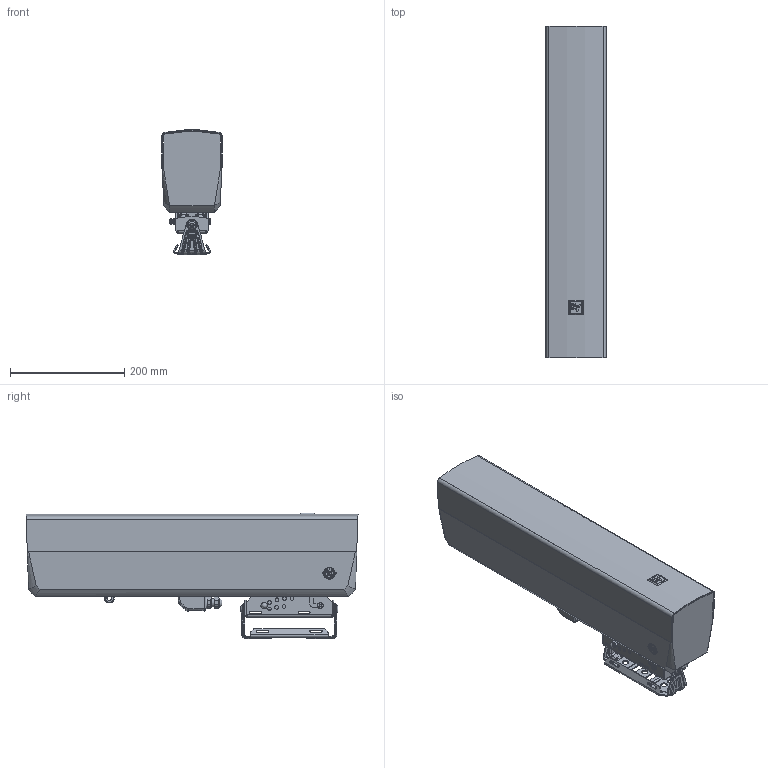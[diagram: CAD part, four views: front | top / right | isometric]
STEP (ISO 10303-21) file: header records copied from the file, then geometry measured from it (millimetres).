
FILE_DESCRIPTION (( 'STEP AP214' ), '1' );
FILE_NAME ('LRC-1060 CAD FOR WEBSITE.STEP', '2024-08-22T03:58:02', ( '' ), ( '' ), 'SwSTEP 2.0', 'SolidWorks 2022', '' );
FILE_SCHEMA (( 'AUTOMOTIVE_DESIGN' ));
Length unit declared in the file: millimetre
Products named in the file (19): LRC-1060 PAN BRACKET; LRC-1060 WIDE NARROW SWITCH; 90221A607_PUSH-IN RIVETS WITH RIBBED SHANK_SIMPLIFIED_90221A607; M16 Plastic Submersible Cord Grip CAD FOR WEB_INSTALLED; M6 18-8 Stainless Steel Vibration-Resistant Cap Locknut, BLACK_90428A120; LRC-1060 EV LOGO; M6 NYLON PLASTIC WASHER BLACK 1_5MM S1_95610A370; F01U425973_90833A111; LRC-1060 GRILLE; M6X16_BUTTON HEAD 5MM HEX DRIVE SCREW_92095A238; M8X25_CORROSION-RESISTANT FULLY THREADED ROD END BOLT CAD FOR WEB_2434K883; M6X65 18-8 Stainless Steel 5mm Hex Head Screw_93856A223; LRC-1060 ENCLOSURE; F01U422225_CAD FOR WEB; LRC-1060 BRACKET BASE PLATE; LRC-1060 TILT BRACKET; LRC-1060 CAD FOR WEBSITE; M8X16 18-8 Stainless Steel Flanged Button Head Nylon Lock Screw_97654A383; F01U424711
Assembly tree (28 placements, depth 2):
  LRC-1060 CAD FOR WEBSITE
    LRC-1060 ENCLOSURE
    LRC-1060 EV LOGO
    90221A607_PUSH-IN RIVETS WITH RIBBED SHANK_SIMPLIFIED_90221A607  x4
    LRC-1060 WIDE NARROW SWITCH
    LRC-1060 GRILLE
    F01U424711
    F01U425973_90833A111  x2
    M6 NYLON PLASTIC WASHER BLACK 1_5MM S1_95610A370  x2
    LRC-1060 TILT BRACKET
    M6X16_BUTTON HEAD 5MM HEX DRIVE SCREW_92095A238  x4
    LRC-1060 BRACKET BASE PLATE
    LRC-1060 PAN BRACKET
    M6X65 18-8 Stainless Steel 5mm Hex Head Screw_93856A223
    M6 18-8 Stainless Steel Vibration-Resistant Cap Locknut, BLACK_90428A120
    M8X16 18-8 Stainless Steel Flanged Button Head Nylon Lock Screw_97654A383  x2
    F01U422225_CAD FOR WEB
    M16 Plastic Submersible Cord Grip CAD FOR WEB_INSTALLED  x2
    M8X25_CORROSION-RESISTANT FULLY THREADED ROD END BOLT CAD FOR WEB_2434K883
Bounding box: 105 x 579.97 x 219.94 mm (x, y, z)
Volume: 1192016.4 mm3; surface area: 750618.3 mm2
Topology: 35 solids, 35 shells, 1883 faces, 4712 edges, 2979 vertices
Faces by surface type: plane 652, cylinder 513, bspline 412, torus 174, cone 115, sphere 17
Full cylindrical faces by diameter (mm): 1.943 x1, 3.625 x2, 4.2 x2, 4.496 x2, 4.5 x1, 4.593 x1, 5.4 x2, 5.41 x3, 5.594 x1, 6 x3, 6.4 x34, 7 x2, 8 x2, 8.5 x2, 9 x1, 9.5 x1, 9.625 x2, 10 x3, 10.5 x6, 11 x6, 12 x2, 12.7 x4, 14.464 x2, 16 x2, 20 x1, 20.5 x1
Entity records: 85681 total; most frequent: CARTESIAN_POINT 42632, ORIENTED_EDGE 8234, DIRECTION 6742, EDGE_CURVE 4117, VERTEX_POINT 2678, AXIS2_PLACEMENT_3D 2570, EDGE_LOOP 2063, FACE_OUTER_BOUND 1779
